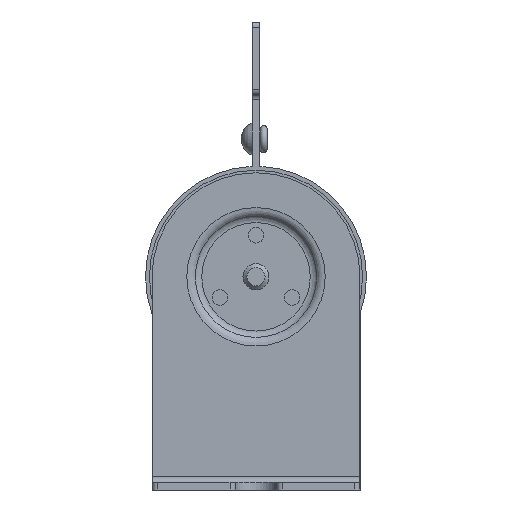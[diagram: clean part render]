
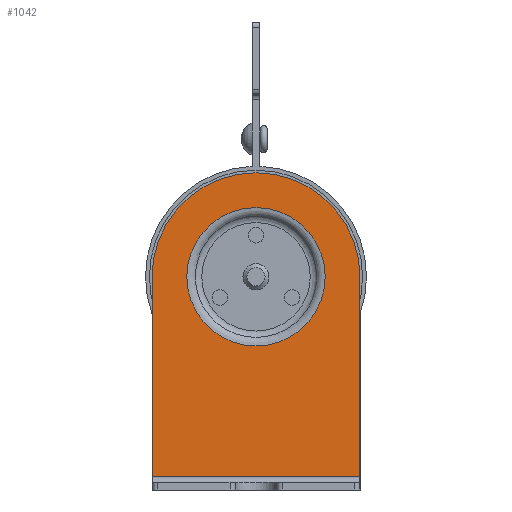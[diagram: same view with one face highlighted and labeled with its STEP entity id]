
A CAD part, left-side view. The second image highlights one B-rep face of the part: STEP entity #1042.
In plain terms, the highlighted planar face has unit normal (-1, 0, 0) as drawn and (1, 0, 0) by its records, which use the part's own axes.
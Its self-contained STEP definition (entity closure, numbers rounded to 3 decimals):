
#1042=ADVANCED_FACE('',(#1810,#1812),#1814,.F.);
#1810=FACE_BOUND('',#1811,.T.);
#1811=EDGE_LOOP('',(#2714,#2715,#2716,#2717));
#1812=FACE_BOUND('',#1813,.T.);
#1813=EDGE_LOOP('',(#2718));
#1814=PLANE('',#1815);
#1815=AXIS2_PLACEMENT_3D('',#1816,#1817,#1818);
#1816=CARTESIAN_POINT('',(1.5,0.,0.));
#1817=DIRECTION('',(-1.,0.,0.));
#1818=DIRECTION('',(0.,-1.,0.));
#2714=ORIENTED_EDGE('',*,*,#3139,.T.);
#2715=ORIENTED_EDGE('',*,*,#3146,.F.);
#2716=ORIENTED_EDGE('',*,*,#3147,.F.);
#2717=ORIENTED_EDGE('',*,*,#3148,.F.);
#2718=ORIENTED_EDGE('',*,*,#3149,.T.);
#3139=EDGE_CURVE('',#3407,#3405,#3408,.T.);
#3146=EDGE_CURVE('',#3417,#3405,#3418,.T.);
#3147=EDGE_CURVE('',#3419,#3417,#3420,.T.);
#3148=EDGE_CURVE('',#3407,#3419,#3421,.T.);
#3149=EDGE_CURVE('',#3422,#3422,#3423,.T.);
#3405=VERTEX_POINT('',#3917);
#3407=VERTEX_POINT('',#3922);
#3408=LINE('',#3923,#3924);
#3417=VERTEX_POINT('',#3949);
#3418=LINE('',#3950,#3951);
#3419=VERTEX_POINT('',#3953);
#3420=CIRCLE('',#3954,20.);
#3421=LINE('',#3958,#3959);
#3422=VERTEX_POINT('',#3961);
#3423=CIRCLE('',#3962,13.306);
#3917=CARTESIAN_POINT('',(1.5,20.,-28.));
#3922=CARTESIAN_POINT('',(1.5,-20.,-28.));
#3923=CARTESIAN_POINT('',(1.5,-20.,-28.));
#3924=VECTOR('',#3925,1.);
#3925=DIRECTION('',(0.,1.,0.));
#3949=CARTESIAN_POINT('',(1.5,20.,10.5));
#3950=CARTESIAN_POINT('',(1.5,20.,10.5));
#3951=VECTOR('',#3952,1.);
#3952=DIRECTION('',(0.,0.,-1.));
#3953=CARTESIAN_POINT('',(1.5,-20.,10.5));
#3954=AXIS2_PLACEMENT_3D('',#3955,#3956,#3957);
#3955=CARTESIAN_POINT('',(1.5,0.,10.5));
#3956=DIRECTION('',(-1.,0.,0.));
#3957=DIRECTION('',(0.,-1.,0.));
#3958=CARTESIAN_POINT('',(1.5,-20.,-28.));
#3959=VECTOR('',#3960,1.);
#3960=DIRECTION('',(0.,0.,1.));
#3961=CARTESIAN_POINT('',(1.5,-13.306,10.5));
#3962=AXIS2_PLACEMENT_3D('',#3963,#3964,#3965);
#3963=CARTESIAN_POINT('',(1.5,0.,10.5));
#3964=DIRECTION('',(-1.,0.,0.));
#3965=DIRECTION('',(0.,-1.,0.));
